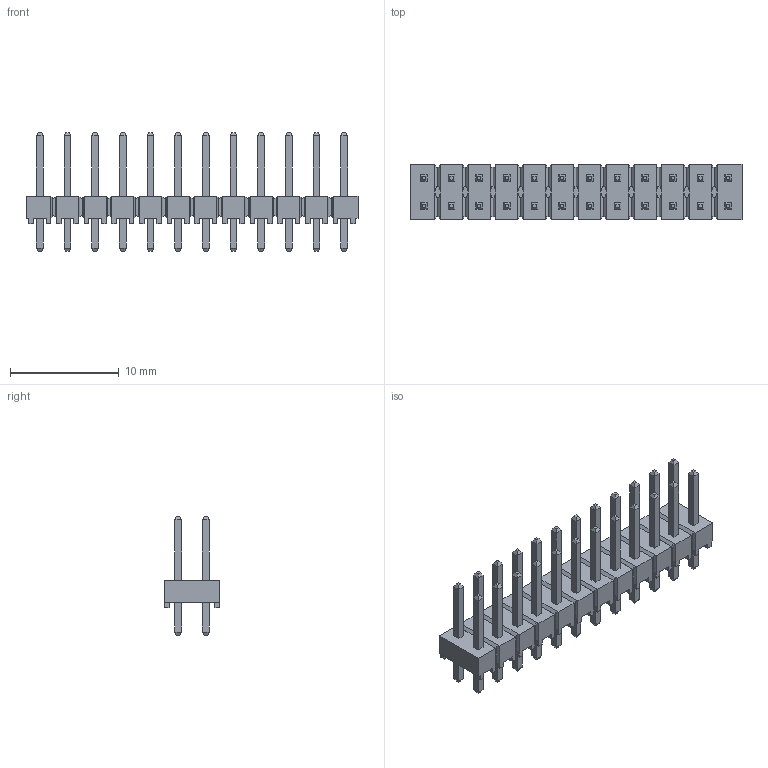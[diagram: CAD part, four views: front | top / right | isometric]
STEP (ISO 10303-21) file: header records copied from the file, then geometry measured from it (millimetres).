
FILE_DESCRIPTION(('FreeCAD Model'),'2;1');
FILE_NAME('C:/Users/cr185092/Documents/KiCAD_Projects/VORON_V2.0_Expander_option2/VORON_V2.0.pretty/3D_Models\PIN_HEADER_TOP_2X12.step', '2017-11-19T13:53:27',('kicad StepUp'),('ksu MCAD'), 'Open CASCADE STEP processor 6.8','FreeCAD','Unknown');
FILE_SCHEMA(('AUTOMOTIVE_DESIGN_CC2 { 1 2 10303 214 -1 1 5 4 }'));
Length unit declared in the file: millimetre
Products named in the file (1): PIN_HEADER_TOP_2X12
Bounding box: 30.48 x 5.08 x 10.92 mm (x, y, z)
Volume: 385 mm3; surface area: 1089.7 mm2
Topology: 1 solids, 1 shells, 982 faces, 2384 edges, 1452 vertices
Faces by surface type: plane 982
Entity records: 34439 total; most frequent: CARTESIAN_POINT 4819, ORIENTED_EDGE 4768, DIRECTION 4350, EDGE_CURVE 2384, LINE 2384, VECTOR 2384, VERTEX_POINT 1452, FACE_BOUND 1030
